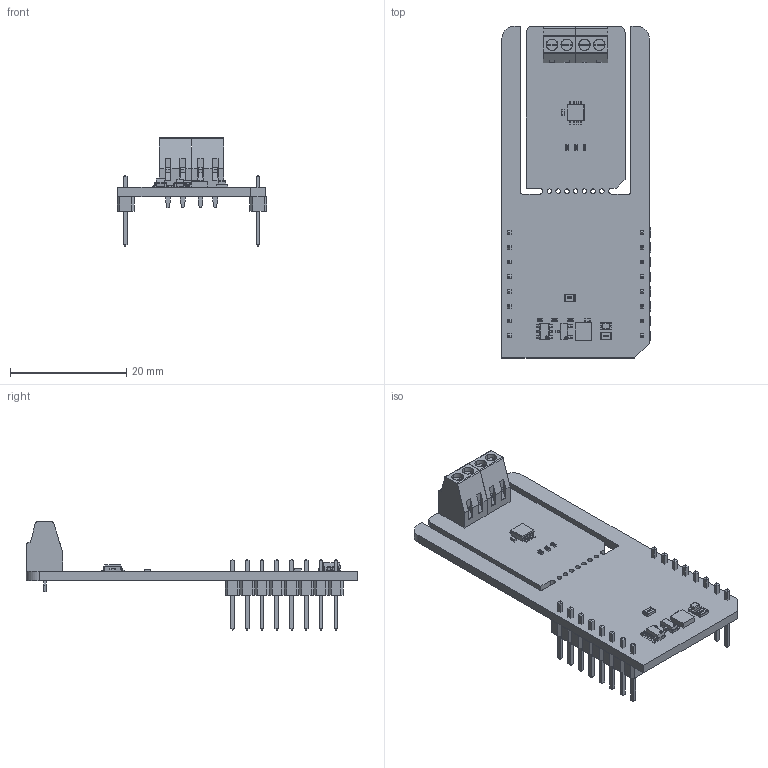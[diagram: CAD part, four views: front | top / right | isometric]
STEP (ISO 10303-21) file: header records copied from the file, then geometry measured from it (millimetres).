
FILE_DESCRIPTION(('Open CASCADE Model'),'2;1');
FILE_NAME('Open CASCADE Shape Model','2026-01-13T10:42:10',('Author'),( 'Open CASCADE'),'Open CASCADE STEP processor 6.8','Open CASCADE 6.8' ,'Unknown');
FILE_SCHEMA(('AUTOMOTIVE_DESIGN { 1 0 10303 214 1 1 1 1 }'));
Length unit declared in the file: millimetre
Products named in the file (45): PCB; Board; MBD1; Header_1x8; Free-Models; 1240637040; User_Library-PinHeaderX5-1_PinHeaderX5_Body_1; User_Library-PinHeaderX5-1_PinHeaderX5_Pins_1; JP1; User_Library-R_0805; U2; User_Library-SOT23-6-2; U1; 828320168; Extruded; Q1; SOT23-3; R4; User_Library-R_0402; C1; User_Library-SMD_CAPACITOR0402; R2; LD1; led_0805_green; R1; R3; C2; R5; R6; R7; TB1; ScrewTerminal_2.54; TB2; U3; TC7; Lead3; Lead8; Mold; Lead2; Lead4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
Assembly tree (54 placements, depth 7):
  PCB
    Board
    MBD1
      Header_1x8  x2
        PCB
          Free-Models
            1240637040  x2
              User_Library-PinHeaderX5-1_PinHeaderX5_Body_1
              User_Library-PinHeaderX5-1_PinHeaderX5_Pins_1
    JP1
      User_Library-R_0805
    U2
      User_Library-SOT23-6-2
    U1
      828320168
        Extruded
    Q1
      SOT23-3
    R4
      User_Library-R_0402
    C1
      User_Library-SMD_CAPACITOR0402
    R2
      User_Library-R_0402
    LD1
      led_0805_green
    R1
      User_Library-R_0805
    R3
      User_Library-R_0402
    C2
      User_Library-SMD_CAPACITOR0402
    R5
      User_Library-R_0402
    R6
      User_Library-R_0402
    R7
      User_Library-R_0402
    TB1
      ScrewTerminal_2.54
    TB2
      ScrewTerminal_2.54
    U3
      TC7
        Lead3
        Lead8
        Mold
        Lead2
        Lead4
        Lead7
        Lead1
        Lead6
        Lead5
Bounding box: 25.78 x 57.15 x 18.61 mm (x, y, z)
Volume: 3040.4 mm3; surface area: 6084.1 mm2
Topology: 70 solids, 70 shells, 1980 faces, 5030 edges, 3240 vertices
Faces by surface type: plane 1508, bspline 240, cylinder 208, sphere 24
Full cylindrical faces by diameter (mm): 0.8 x7
Entity records: 35237 total; most frequent: CARTESIAN_POINT 9020, ORIENTED_EDGE 4482, DIRECTION 4167, EDGE_CURVE 2241, LINE 1781, VECTOR 1781, VERTEX_POINT 1446, AXIS2_PLACEMENT_3D 1193
